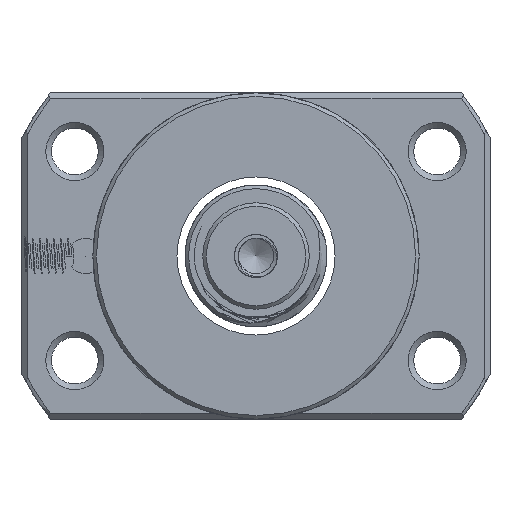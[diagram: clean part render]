
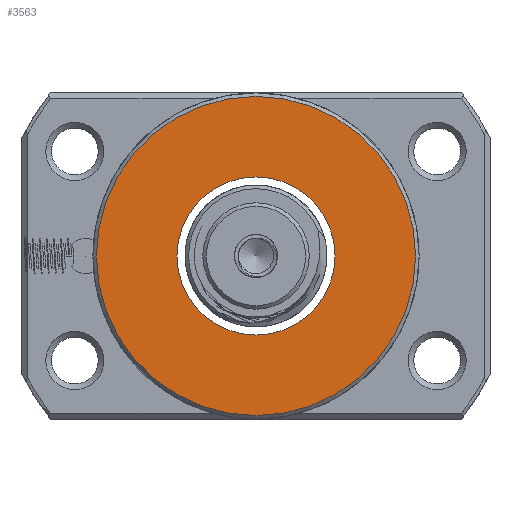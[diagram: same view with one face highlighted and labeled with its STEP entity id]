
A CAD part, left-side view. The second image highlights one B-rep face of the part: STEP entity #3563.
In plain terms, the highlighted planar face has unit normal (-1, 0, 0).
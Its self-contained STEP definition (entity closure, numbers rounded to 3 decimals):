
#1166 = CARTESIAN_POINT ( 'NONE',  ( -53.324, 0., 0. ) ) ;
#1339 = CARTESIAN_POINT ( 'NONE',  ( -53.324, 0., 22.5 ) ) ;
#1560 = FACE_BOUND ( 'NONE', #5610, .T. ) ;
#2559 = AXIS2_PLACEMENT_3D ( 'NONE', #1166, #31012, #30383 ) ;
#2661 = EDGE_LOOP ( 'NONE', ( #25603 ) ) ;
#3563 = ADVANCED_FACE ( 'NONE', ( #18657, #1560 ), #11301, .T. ) ;
#3740 = VERTEX_POINT ( 'NONE', #1339 ) ;
#5610 = EDGE_LOOP ( 'NONE', ( #27680 ) ) ;
#5987 = AXIS2_PLACEMENT_3D ( 'NONE', #25988, #21042, #28385 ) ;
#8530 = DIRECTION ( 'NONE',  ( 0., 0., 1. ) ) ;
#8711 = EDGE_CURVE ( 'NONE', #3740, #3740, #27019, .T. ) ;
#10050 = VERTEX_POINT ( 'NONE', #14683 ) ;
#10933 = DIRECTION ( 'NONE',  ( -1., 0., 0. ) ) ;
#11301 = PLANE ( 'NONE',  #5987 ) ;
#14296 = AXIS2_PLACEMENT_3D ( 'NONE', #23379, #10933, #8530 ) ;
#14683 = CARTESIAN_POINT ( 'NONE',  ( -53.324, 0., 11.15 ) ) ;
#18657 = FACE_OUTER_BOUND ( 'NONE', #2661, .T. ) ;
#21042 = DIRECTION ( 'NONE',  ( -1., 0., 0. ) ) ;
#23379 = CARTESIAN_POINT ( 'NONE',  ( -53.324, 0., 0. ) ) ;
#25603 = ORIENTED_EDGE ( 'NONE', *, *, #8711, .T. ) ;
#25988 = CARTESIAN_POINT ( 'NONE',  ( -53.324, 11.15, 0. ) ) ;
#27019 = CIRCLE ( 'NONE', #2559, 22.5 ) ;
#27680 = ORIENTED_EDGE ( 'NONE', *, *, #29831, .F. ) ;
#28067 = CIRCLE ( 'NONE', #14296, 11.15 ) ;
#28385 = DIRECTION ( 'NONE',  ( 0., 0., 1. ) ) ;
#29831 = EDGE_CURVE ( 'NONE', #10050, #10050, #28067, .T. ) ;
#30383 = DIRECTION ( 'NONE',  ( 0., 0., 1. ) ) ;
#31012 = DIRECTION ( 'NONE',  ( -1., 0., 0. ) ) ;
